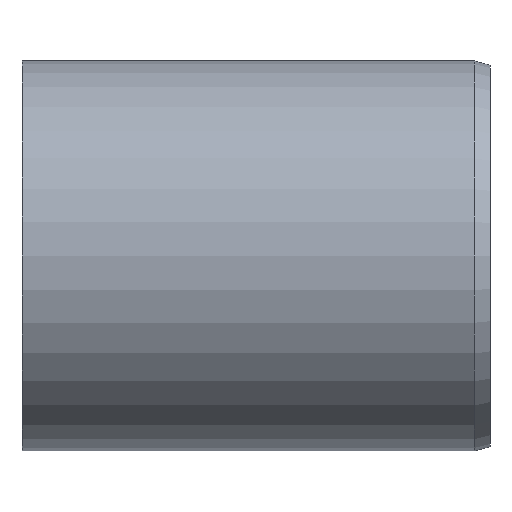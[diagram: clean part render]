
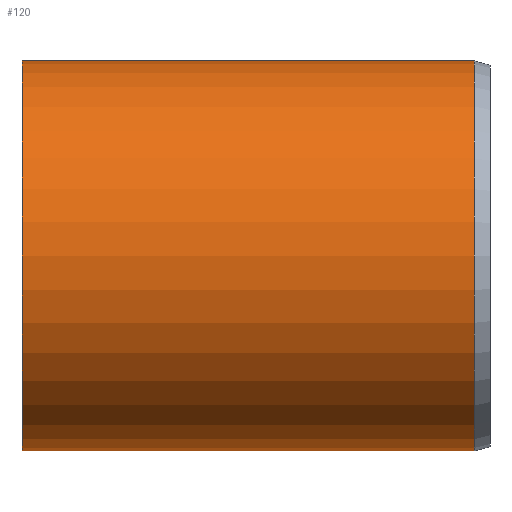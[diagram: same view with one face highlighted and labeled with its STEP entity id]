
A CAD part, front view. The second image highlights one B-rep face of the part: STEP entity #120.
In plain terms, the highlighted cylindrical face has radius 50 mm (diameter 100 mm), a full revolution.
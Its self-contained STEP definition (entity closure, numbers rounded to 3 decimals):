
#20=LINE('',#229,#23);
#23=VECTOR('',#197,50.);
#26=CYLINDRICAL_SURFACE('',#157,50.);
#32=FACE_OUTER_BOUND('',#41,.T.);
#41=EDGE_LOOP('',(#97,#98,#99,#100));
#49=CIRCLE('',#151,50.);
#53=CIRCLE('',#158,50.);
#59=VERTEX_POINT('',#217);
#62=VERTEX_POINT('',#227);
#70=EDGE_CURVE('',#59,#59,#49,.T.);
#74=EDGE_CURVE('',#62,#62,#53,.T.);
#75=EDGE_CURVE('',#62,#59,#20,.T.);
#97=ORIENTED_EDGE('',*,*,#74,.F.);
#98=ORIENTED_EDGE('',*,*,#75,.T.);
#99=ORIENTED_EDGE('',*,*,#70,.T.);
#100=ORIENTED_EDGE('',*,*,#75,.F.);
#120=ADVANCED_FACE('',(#32),#26,.T.);
#151=AXIS2_PLACEMENT_3D('',#218,#181,#182);
#157=AXIS2_PLACEMENT_3D('',#226,#193,#194);
#158=AXIS2_PLACEMENT_3D('',#228,#195,#196);
#181=DIRECTION('center_axis',(1.,0.,0.));
#182=DIRECTION('ref_axis',(0.,0.,-1.));
#193=DIRECTION('center_axis',(1.,0.,0.));
#194=DIRECTION('ref_axis',(0.,1.,0.));
#195=DIRECTION('center_axis',(1.,0.,0.));
#196=DIRECTION('ref_axis',(0.,0.,-1.));
#197=DIRECTION('',(-1.,0.,0.));
#217=CARTESIAN_POINT('',(0.,-50.,0.));
#218=CARTESIAN_POINT('Origin',(0.,0.,0.));
#226=CARTESIAN_POINT('Origin',(58.,0.,0.));
#227=CARTESIAN_POINT('',(116.,-50.,0.));
#228=CARTESIAN_POINT('Origin',(116.,0.,0.));
#229=CARTESIAN_POINT('',(58.,-50.,0.));
